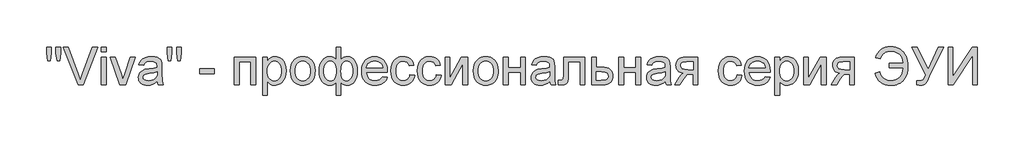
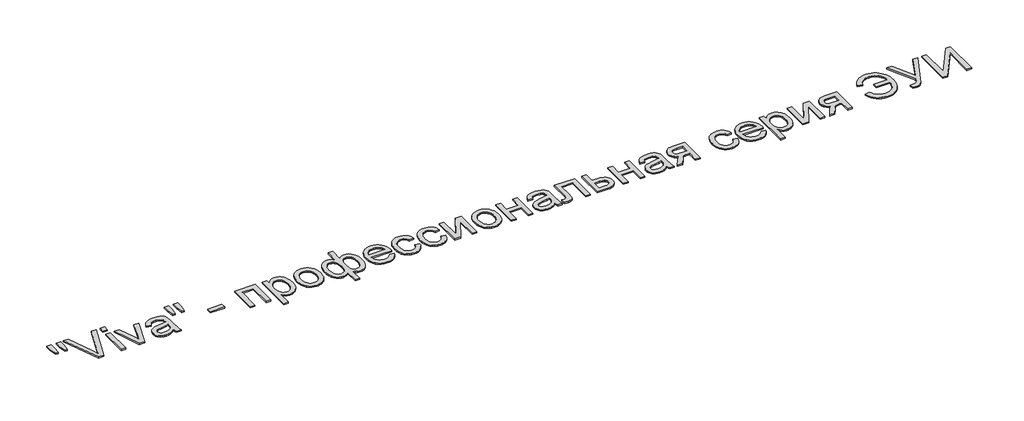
# One storey, part 12 of 15: 1 proxy.
"""IFC4 building model written with IfcOpenShell, lengths in millimetres."""

from ifc_helpers import new_model, si_unit, origin, origin_with_axes, place, context, project, spatial, polyline, outline, extrude, element, save

model = new_model("IFC4")

# Units and contexts
model_context = context("Model", 3, world=origin())
ifc_project = project(units=[si_unit("LENGTHUNIT", "METRE", prefix="MILLI")], contexts=[model_context])

# Site, building, storey
site = spatial("IfcSite", under=ifc_project)
building = spatial("IfcBuilding", under=site)
storey = spatial("IfcBuildingStorey", under=building, Name="Этаж 01", Elevation=0.0)

# Proxy
placement = place(None, origin())
element("IfcBuildingElementProxy", 1, Name="600 мм Arial", ObjectType="600 мм Arial", at=placement, inside=storey, context=model_context, shape_type="SweptSolid", body=[
    extrude(outline(polyline([(-8696.8209042, 8340.2726451), (-8715.215004, 8456.6705084), (-8715.215004, 8556.8815639), (-8639.8727714, 8556.8815639), (-8639.8727714, 8456.6705084), (-8656.3538847, 8340.2726451), (-8696.8209042, 8340.2726451)])), origin_with_axes(), (0.0, 0.0, 1.0), 20.0),
    extrude(outline(polyline([(-8546.5778974, 8340.2726451), (-8564.5305387, 8456.6705084), (-8564.5305387, 8556.8815639), (-8489.1883061, 8556.8815639), (-8489.1883061, 8456.6705084), (-8506.8466419, 8340.2726451), (-8546.5778974, 8340.2726451)])), origin_with_axes(), (0.0, 0.0, 1.0), 20.0),
    extrude(outline(polyline([(-8207.5378506, 7954.143703), (-8447.3969115, 8556.8815639), (-8366.7571781, 8556.8815639), (-8206.2134754, 8122.6336568), (-8173.6927071, 8024.7770461), (-8141.6133971, 8122.6336568), (-7980.628236, 8556.8815639), (-7899.9885027, 8556.8815639), (-8129.6940204, 7954.143703), (-8207.5378506, 7954.143703)])), origin_with_axes(), (0.0, 0.0, 1.0), 20.0),
    extrude(outline(polyline([(-7839.3615498, 8481.5393313), (-7839.3615498, 8556.8815639), (-7764.0193172, 8556.8815639), (-7764.0193172, 8481.5393313), (-7839.3615498, 8481.5393313)])), origin_with_axes(), (0.0, 0.0, 1.0), 20.0),
    extrude(outline(polyline([(-7839.3615498, 7954.143703), (-7839.3615498, 8396.7793196), (-7764.0193172, 8396.7793196), (-7764.0193172, 7954.143703), (-7839.3615498, 7954.143703)])), origin_with_axes(), (0.0, 0.0, 1.0), 20.0),
    extrude(outline(polyline([(-7542.4072033, 7954.143703), (-7698.0948637, 8396.7793196), (-7618.3380471, 8396.7793196), (-7524.0131036, 8131.6099775), (-7495.6126136, 8042.4353819), (-7467.8007347, 8126.6067823), (-7372.88718, 8396.7793196), (-7293.1303634, 8396.7793196), (-7446.9050374, 7954.143703), (-7542.4072033, 7954.143703)])), origin_with_axes(), (0.0, 0.0, 1.0), 20.0),
    extrude(outline(polyline([(-6944.6725376, 8010.6503775), (-6980.6697908, 7979.7850781), (-7017.7339018, 7959.5883565), (-7056.7109992, 7948.4415321), (-7098.4472116, 7944.7259239), (-7131.993451, 7946.9608071), (-7161.410215, 7953.6654564), (-7186.6975037, 7964.839872), (-7207.8553169, 7980.4840539), (-7224.561758, 7999.6047206), (-7236.4949302, 8021.2085907), (-7243.6548336, 8045.2956644), (-7246.041468, 8071.8659415), (-7242.4362245, 8103.0991229), (-7231.6204938, 8131.4628247), (-7214.9370453, 8155.7430364), (-7193.7286483, 8174.7257473), (-7168.8046431, 8189.0731451), (-7140.9743702, 8199.4474174), (-7075.7856807, 8210.7781828), (-6998.7511909, 8222.6975595), (-6945.113996, 8236.6770753), (-6944.6725376, 8253.4524943), (-6949.8596737, 8287.0769086), (-6956.3435939, 8299.5297142), (-6965.4210821, 8309.076252), (-6981.1112492, 8318.6043956), (-7000.2227188, 8325.4102125), (-7048.7095658, 8330.8548661), (-7093.5911692, 8327.2312284), (-7124.9347152, 8316.3603155), (-7146.3086591, 8296.2555644), (-7161.2814563, 8264.9304125), (-7236.6236889, 8274.3481916), (-7223.545484, 8315.5509751), (-7204.0293442, 8347.9245906), (-7176.2542535, 8372.6830489), (-7138.3991962, 8391.0403605), (-7092.1012471, 8402.4079141), (-7038.9974811, 8406.1970987), (-6988.0642189, 8402.8493725), (-6947.6891699, 8392.8061941), (-6917.2469348, 8377.7046382), (-6896.1121142, 8359.1817797), (-6882.0958102, 8336.2811255), (-6873.0091249, 8308.0461824), (-6869.330305, 8242.1217288), (-6869.330305, 8148.3853965), (-6865.5043322, 8017.4929826), (-6859.8389495, 7985.1377611), (-6850.4947468, 7954.143703), (-6925.8369794, 7954.143703), (-6937.9035089, 7980.3369011), (-6944.6725376, 8010.6503775)]), holes=[polyline([(-6944.6725376, 8161.3348427), (-6995.2931001, 8148.7900667), (-7066.2207488, 8138.2318534), (-7131.0415563, 8126.0181712), (-7147.9089458, 8117.6672499), (-7160.3985395, 8106.1525434), (-7168.1240614, 8092.3569686), (-7170.6992354, 8077.1634422), (-7165.089035, 8054.7594287), (-7148.2584337, 8036.4021171), (-7120.5753136, 8024.1516467), (-7082.4075566, 8020.0681565), (-7041.9405371, 8024.574711), (-7006.1824072, 8038.0943743), (-6977.1933059, 8058.0151843), (-6957.0333726, 8081.7251789), (-6948.0938401, 8106.1525434), (-6945.113996, 8139.997687), (-6944.6725376, 8161.3348427)])]), origin_with_axes(), (0.0, 0.0, 1.0), 20.0),
    extrude(outline(polyline([(-6766.1761935, 8340.2726451), (-6784.5702933, 8456.6705084), (-6784.5702933, 8556.8815639), (-6709.2280607, 8556.8815639), (-6709.2280607, 8456.6705084), (-6725.709174, 8340.2726451), (-6766.1761935, 8340.2726451)])), origin_with_axes(), (0.0, 0.0, 1.0), 20.0),
    extrude(outline(polyline([(-6615.9331867, 8340.2726451), (-6633.8858281, 8456.6705084), (-6633.8858281, 8556.8815639), (-6558.5435954, 8556.8815639), (-6558.5435954, 8456.6705084), (-6576.2019312, 8340.2726451), (-6615.9331867, 8340.2726451)])), origin_with_axes(), (0.0, 0.0, 1.0), 20.0),
    extrude(outline(polyline([(-6266.5924441, 8133.0815055), (-6266.5924441, 8208.4237381), (-6031.1479672, 8208.4237381), (-6031.1479672, 8133.0815055), (-6266.5924441, 8133.0815055)])), origin_with_axes(), (0.0, 0.0, 1.0), 20.0),
    extrude(outline(polyline([(-5710.9434786, 8396.7793196), (-5371.9034318, 8396.7793196), (-5371.9034318, 7954.143703), (-5447.2456644, 7954.143703), (-5447.2456644, 8321.437087), (-5635.6012459, 8321.437087), (-5635.6012459, 7954.143703), (-5710.9434786, 7954.143703), (-5710.9434786, 8396.7793196)])), origin_with_axes(), (0.0, 0.0, 1.0), 20.0),
    extrude(outline(polyline([(-5258.8900829, 7784.6236796), (-5258.8900829, 8396.7793196), (-5183.5478503, 8396.7793196), (-5183.5478503, 8322.908615), (-5158.973333, 8359.3473266), (-5131.4557597, 8385.3749778), (-5099.3764498, 8400.9915685), (-5061.1167223, 8406.1970987), (-5034.8407508, 8404.3760828), (-5010.1650659, 8398.9130352), (-4987.0896678, 8389.8079558), (-4965.6145563, 8377.0608447), (-4946.2087811, 8361.0027956), (-4929.3413916, 8341.9649023), (-4915.0123879, 8319.9471649), (-4903.2217699, 8294.9495833), (-4887.4396323, 8239.4361903), (-4882.1789198, 8178.8460257), (-4888.120214, 8114.4114942), (-4895.5468318, 8084.7464098), (-4905.9440967, 8056.7827797), (-4919.1694544, 8031.2517692), (-4935.0803507, 8008.8845439), (-4953.6767856, 7989.6811037), (-4974.958759, 7973.6414488), (-4997.8824058, 7960.9909066), (-5021.4038609, 7951.9548051), (-5045.5231242, 7946.5331442), (-5070.2401958, 7944.7259239), (-5104.8762856, 7949.5635722), (-5135.7967673, 7964.0765169), (-5162.2658768, 7985.9838897), (-5183.5478503, 8013.0048222), (-5183.5478503, 7784.6236796), (-5258.8900829, 7784.6236796)]), holes=[polyline([(-5183.5478503, 8171.9298442), (-5181.5107037, 8135.6198912), (-5175.3992641, 8104.3867098), (-5165.2135313, 8078.2303), (-5150.9535055, 8057.1506617), (-5133.7872119, 8040.9270657), (-5114.8826759, 8029.3387828), (-5094.2398974, 8022.3858131), (-5071.8588765, 8020.0681565), (-5049.1559589, 8022.4685866), (-5028.1361014, 8029.6698766), (-5008.799304, 8041.6720267), (-4991.1455668, 8058.4750368), (-4976.4348855, 8080.3180303), (-4965.927256, 8107.4401304), (-4959.6226783, 8139.8413371), (-4957.5211524, 8177.5216505), (-4959.5720946, 8213.5189037), (-4965.7249209, 8244.6969028), (-4975.9796315, 8271.0556478), (-4990.3362264, 8292.5951386), (-5007.5439067, 8309.3337694), (-5026.3518737, 8321.2899342), (-5046.7601274, 8328.4636331), (-5068.7686678, 8330.8548661), (-5090.7082303, 8328.3118818), (-5111.3510087, 8320.6829289), (-5130.6970031, 8307.9680074), (-5148.7462135, 8290.1671174), (-5163.9719296, 8267.5193821), (-5174.8474411, 8240.2639248), (-5181.372748, 8208.4007455), (-5183.5478503, 8171.9298442)])]), origin_with_axes(), (0.0, 0.0, 1.0), 20.0),
    extrude(outline(polyline([(-4816.2544663, 8175.4615113), (-4812.1801732, 8232.7867232), (-4799.9572939, 8282.1840781), (-4779.5858284, 8323.653576), (-4751.0657767, 8357.1952169), (-4722.352587, 8378.6335402), (-4690.6595531, 8393.9466282), (-4655.9866751, 8403.1344811), (-4618.3339529, 8406.1970987), (-4576.7678859, 8402.467695), (-4539.1841416, 8391.2794838), (-4505.5827199, 8372.6324651), (-4475.9636207, 8346.5266391), (-4451.7891751, 8313.8449223), (-4434.521714, 8275.4702317), (-4424.1612373, 8231.4025672), (-4420.7077451, 8181.6419288), (-4422.2344553, 8141.3128651), (-4426.8145862, 8105.527144), (-4434.4481376, 8074.2847656), (-4445.1351095, 8047.5857298), (-4458.7421448, 8024.5241272), (-4475.1358863, 8004.1940485), (-4494.3163338, 7986.5954935), (-4516.2834874, 7971.7284624), (-4540.1820215, 7959.9148518), (-4565.1566105, 7951.4765585), (-4591.2072543, 7946.4135826), (-4618.3339529, 7944.7259239), (-4660.5070251, 7948.4415321), (-4698.4402573, 7959.5883565), (-4732.1336496, 7978.1663973), (-4761.5872018, 8004.1756544), (-4785.50413, 8037.1746693), (-4802.5876502, 8076.7219838), (-4812.8377623, 8122.8175978), (-4816.2544663, 8175.4615113)]), holes=[polyline([(-4740.9122337, 8175.6086641), (-4738.7325328, 8139.0641864), (-4732.1934304, 8107.4217363), (-4721.2949263, 8080.6813138), (-4706.0370205, 8058.8429188), (-4687.4773739, 8041.8789603), (-4666.673647, 8029.7618471), (-4643.62584, 8022.4915792), (-4618.3339529, 8020.0681565), (-4593.1708244, 8022.5053748), (-4570.2149879, 8029.8170294), (-4549.4664434, 8042.0031205), (-4530.9251908, 8059.063648), (-4515.6672851, 8081.1181736), (-4504.768781, 8108.286259), (-4498.2296785, 8140.5679041), (-4496.0499777, 8177.9631089), (-4498.2434741, 8213.3487583), (-4504.8239633, 8244.1634739), (-4515.7914452, 8270.4072557), (-4531.14592, 8292.0801038), (-4549.7561504, 8309.0440623), (-4570.4908994, 8321.1611755), (-4593.3501669, 8328.4314434), (-4618.3339529, 8330.8548661), (-4643.62584, 8328.4406405), (-4666.673647, 8321.1979637), (-4687.4773739, 8309.1268357), (-4706.0370205, 8292.2272566), (-4721.2949263, 8270.453241), (-4732.1934304, 8243.7588037), (-4738.7325328, 8212.1439448), (-4740.9122337, 8175.6086641)])]), origin_with_axes(), (0.0, 0.0, 1.0), 20.0),
    extrude(outline(polyline([(-4081.6676983, 8556.8815639), (-4006.3254657, 8556.8815639), (-4006.3254657, 8354.252161), (-3983.4615997, 8377.116027), (-3958.4272299, 8393.3212289), (-3931.332721, 8402.9781312), (-3902.2884375, 8406.1970987), (-3867.4086258, 8402.1044115), (-3836.3455898, 8389.8263499), (-3809.0993296, 8369.3629139), (-3785.669845, 8340.7141035), (-3766.8388854, 8305.8572845), (-3753.3881999, 8266.7698225), (-3745.3177886, 8223.4517176), (-3742.6276516, 8175.9029697), (-3745.5247223, 8126.5929868), (-3754.2159344, 8082.2586078), (-3768.701288, 8042.8998329), (-3788.9807829, 8008.5166619), (-3813.5644973, 7980.608214), (-3840.9625089, 7960.6736084), (-3871.1748177, 7948.7128451), (-3904.2014238, 7944.7259239), (-3927.0468957, 7946.5653339), (-3950.2602496, 7952.0835638), (-3975.9752011, 7965.8055623), (-4006.3254657, 7992.2562777), (-4006.3254657, 7784.6236796), (-4081.6676983, 7784.6236796), (-4081.6676983, 7992.2562777), (-4104.5867466, 7971.5077332), (-4129.7866633, 7956.6453006), (-4157.1938719, 7947.7057681), (-4186.7347961, 7944.7259239), (-4219.3659291, 7948.5335026), (-4249.8633465, 7959.9562385), (-4278.2270483, 7978.9941318), (-4304.4570346, 8005.6471823), (-4326.474772, 8039.3911583), (-4342.2017273, 8079.701828), (-4351.6379005, 8126.5791912), (-4354.7832915, 8180.023248), (-4351.9368046, 8226.1280591), (-4343.3973438, 8268.3517151), (-4329.1649091, 8306.694216), (-4309.2395005, 8341.1555619), (-4284.5040349, 8369.6112343), (-4255.8414289, 8389.9367145), (-4223.2516827, 8402.1320026), (-4186.7347961, 8406.1970987), (-4156.0350436, 8402.9781312), (-4128.3887117, 8393.3212289), (-4103.6486475, 8377.116027), (-4081.6676983, 8354.252161), (-4081.6676983, 8556.8815639)]), holes=[polyline([(-4279.4410589, 8181.6419288), (-4277.5556637, 8141.6807471), (-4271.899478, 8107.734436), (-4262.4725019, 8079.8029955), (-4249.2747353, 8057.8864256), (-4233.2810656, 8041.3409329), (-4215.46638, 8029.5227238), (-4195.8306785, 8022.4317984), (-4174.3739611, 8020.0681565), (-4152.4527927, 8022.4180028), (-4133.4838773, 8029.4675415), (-4117.467215, 8041.2167727), (-4104.4028056, 8057.6656965), (-4094.2630581, 8078.8143126), (-4087.0203813, 8104.6626213), (-4082.6747753, 8135.2106225), (-4081.2262399, 8170.4583162), (-4082.7483517, 8208.0512576), (-4087.3146869, 8240.6318068), (-4094.9252457, 8268.1999638), (-4105.580028, 8290.7557286), (-4119.3066249, 8308.2991012), (-4136.1326277, 8320.8300817), (-4156.0580363, 8328.34867), (-4179.0828506, 8330.8548661), (-4200.2728536, 8328.4084508), (-4219.4027173, 8321.069205), (-4236.4724419, 8308.8371287), (-4251.4820273, 8291.7122218), (-4263.7141036, 8270.1543369), (-4272.451301, 8244.6233264), (-4277.6936194, 8215.1191904), (-4279.4410589, 8181.6419288)]), polyline([(-4006.7669241, 8174.1371361), (-4005.1988271, 8132.2583695), (-4000.4945361, 8097.8568044), (-3992.6540511, 8070.9324409), (-3981.677372, 8051.4852789), (-3968.3370512, 8037.7402879), (-3953.4056407, 8027.9224371), (-3936.8831406, 8022.0317267), (-3918.7695508, 8020.0681565), (-3898.6418072, 8022.4823821), (-3880.0499709, 8029.7250589), (-3862.9940419, 8041.7961869), (-3847.4740202, 8058.695766), (-3834.5659607, 8080.6813138), (-3825.3459182, 8108.0103475), (-3819.8138927, 8140.6828672), (-3817.9698842, 8178.6988729), (-3819.6713384, 8214.6593379), (-3824.7757011, 8245.7269724), (-3833.2829722, 8271.9017763), (-3845.1931518, 8293.1837498), (-3859.7704759, 8309.6648631), (-3876.2791804, 8321.437087), (-3894.7192654, 8328.5004213), (-3915.0907309, 8330.8548661), (-3936.4876674, 8328.4038523), (-3955.0611097, 8321.0508109), (-3970.8110576, 8308.7957419), (-3983.7375112, 8291.6386454), (-3993.8128793, 8269.5887183), (-4001.0095709, 8242.6551577), (-4005.3275858, 8210.8379637), (-4006.7669241, 8174.1371361)])]), origin_with_axes(), (0.0, 0.0, 1.0), 20.0),
    extrude(outline(polyline([(-3338.5460681, 8085.9926101), (-3264.6753634, 8076.574831), (-3276.0015303, 8046.9879215), (-3291.2916258, 8020.9142851), (-3310.5456497, 7998.3539218), (-3333.7636021, 7979.3068315), (-3360.7063597, 7964.1776844), (-3391.1347993, 7953.3711508), (-3425.0489207, 7946.8872307), (-3462.448724, 7944.7259239), (-3509.1973286, 7948.4553277), (-3550.8507675, 7959.6435388), (-3587.4090407, 7978.2905575), (-3618.8721484, 8004.3963836), (-3644.1732326, 8037.2344501), (-3662.2454356, 8076.0781903), (-3673.0887574, 8120.927604), (-3676.703198, 8171.7826914), (-3673.0519692, 8224.3622255), (-3662.0982828, 8270.7061599), (-3643.8421388, 8310.8144944), (-3618.2835372, 8344.6872291), (-3586.903203, 8371.597797), (-3551.1818613, 8390.8196313), (-3511.119512, 8402.3527318), (-3466.7161552, 8406.1970987), (-3423.7429396, 8402.3619289), (-3384.8808053, 8390.8564195), (-3350.1297524, 8371.6805705), (-3319.4897807, 8344.8343819), (-3294.4784036, 8311.0352236), (-3276.6131342, 8271.0004655), (-3265.8939725, 8224.7301075), (-3262.3209187, 8172.2241497), (-3262.762377, 8151.9170636), (-3601.3609654, 8151.9170636), (-3596.9969652, 8121.8519076), (-3588.3195487, 8095.5207538), (-3575.3287157, 8072.9236022), (-3558.0244664, 8054.0604529), (-3537.3632938, 8039.1888232), (-3514.3016913, 8028.5662306), (-3488.8396587, 8022.1926751), (-3460.977196, 8020.0681565), (-3420.8780586, 8024.0044939), (-3387.1064914, 8035.8135059), (-3359.6624946, 8056.2309567), (-3338.5460681, 8085.9926101)]), holes=[polyline([(-3601.3609654, 8227.2592962), (-3337.6631513, 8227.2592962), (-3347.8534825, 8267.0641281), (-3356.6182711, 8282.717507), (-3367.8294749, 8295.5381945), (-3388.3756843, 8310.9892383), (-3411.7545851, 8322.0256982), (-3437.9661773, 8328.6475741), (-3467.0104608, 8330.8548661), (-3493.5025629, 8329.093631), (-3517.7965702, 8323.8099259), (-3539.8924825, 8315.0037506), (-3559.7903, 8302.6751052), (-3576.487544, 8287.3942069), (-3588.9817363, 8269.7312726), (-3597.2728767, 8249.6863024), (-3601.3609654, 8227.2592962)])]), origin_with_axes(), (0.0, 0.0, 1.0), 20.0),
    extrude(outline(polyline([(-2904.4453137, 8114.2459473), (-2829.1030811, 8104.8281682), (-2837.2976526, 8069.2769719), (-2850.1091431, 8037.8184628), (-2867.5375526, 8010.4526409), (-2889.5828811, 7987.1795062), (-2915.3162267, 7968.6060639), (-2943.8086872, 7955.3393195), (-2975.0602627, 7947.3792728), (-3009.0709532, 7944.7259239), (-3051.3267988, 7948.4277365), (-3089.2140458, 7959.5331742), (-3122.7326941, 7978.0422371), (-3151.8827437, 8003.9549252), (-3175.4777752, 8036.7837947), (-3192.3313691, 8076.0414021), (-3202.4435254, 8121.7277474), (-3205.8142442, 8173.8428305), (-3200.056891, 8240.8893241), (-3192.8601994, 8271.0602463), (-3182.7848313, 8298.9962853), (-3169.7618087, 8324.1364211), (-3153.7221537, 8345.9196338), (-3134.6658663, 8364.3459232), (-3112.5929466, 8379.4152894), (-3088.5012745, 8391.132331), (-3063.3887298, 8399.5016464), (-3037.2553125, 8404.5232356), (-3010.1010228, 8406.1970987), (-2976.674345, 8403.8978362), (-2946.4390435, 8397.0000488), (-2919.3951183, 8385.5037365), (-2895.5425695, 8369.4088992), (-2875.2860671, 8349.0834189), (-2859.0302814, 8324.8951777), (-2846.7752125, 8296.8441756), (-2838.5208602, 8264.9304125), (-2913.8630928, 8255.5126335), (-2927.5299089, 8288.3828897), (-2948.8118824, 8311.9457315), (-2976.5317907, 8326.1275824), (-3009.5124116, 8330.8548661), (-3035.1123999, 8328.5280125), (-3058.2015936, 8321.5474516), (-3078.7799927, 8309.9131835), (-3096.8475972, 8293.6252082), (-3111.5582785, 8272.3064465), (-3122.065908, 8245.5798196), (-3128.3704857, 8213.4453273), (-3130.4720116, 8175.9029697), (-3128.4164709, 8137.7949935), (-3122.249849, 8105.2880207), (-3111.9721458, 8078.3820513), (-3097.5833612, 8057.0770853), (-3079.8744417, 8040.8856789), (-3059.6363334, 8029.3203887), (-3036.8690364, 8022.3812146), (-3011.5725507, 8020.0681565), (-2972.5586652, 8025.8439039), (-2955.6866771, 8033.063588), (-2940.5713257, 8043.1711458), (-2927.635675, 8056.2769419), (-2917.3027895, 8072.4913409), (-2909.5726691, 8091.8143427), (-2904.4453137, 8114.2459473)])), origin_with_axes(), (0.0, 0.0, 1.0), 20.0),
    extrude(outline(polyline([(-2480.6452553, 8114.2459473), (-2405.3030227, 8104.8281682), (-2413.4975941, 8069.2769719), (-2426.3090846, 8037.8184628), (-2443.7374941, 8010.4526409), (-2465.7828227, 7987.1795062), (-2491.5161683, 7968.6060639), (-2520.0086288, 7955.3393195), (-2551.2602043, 7947.3792728), (-2585.2708947, 7944.7259239), (-2627.5267404, 7948.4277365), (-2665.4139874, 7959.5331742), (-2698.9326357, 7978.0422371), (-2728.0826853, 8003.9549252), (-2751.6777167, 8036.7837947), (-2768.5313106, 8076.0414021), (-2778.643467, 8121.7277474), (-2782.0141858, 8173.8428305), (-2776.2568325, 8240.8893241), (-2769.060141, 8271.0602463), (-2758.9847729, 8298.9962853), (-2745.9617502, 8324.1364211), (-2729.9220952, 8345.9196338), (-2710.8658079, 8364.3459232), (-2688.7928882, 8379.4152894), (-2664.701216, 8391.132331), (-2639.5886713, 8399.5016464), (-2613.4552541, 8404.5232356), (-2586.3009643, 8406.1970987), (-2552.8742865, 8403.8978362), (-2522.6389851, 8397.0000488), (-2495.5950599, 8385.5037365), (-2471.742511, 8369.4088992), (-2451.4860087, 8349.0834189), (-2435.230223, 8324.8951777), (-2422.975154, 8296.8441756), (-2414.7208018, 8264.9304125), (-2490.0630344, 8255.5126335), (-2503.7298505, 8288.3828897), (-2525.0118239, 8311.9457315), (-2552.7317323, 8326.1275824), (-2585.7123531, 8330.8548661), (-2611.3123415, 8328.5280125), (-2634.4015352, 8321.5474516), (-2654.9799343, 8309.9131835), (-2673.0475388, 8293.6252082), (-2687.7582201, 8272.3064465), (-2698.2658495, 8245.5798196), (-2704.5704272, 8213.4453273), (-2706.6719531, 8175.9029697), (-2704.6164125, 8137.7949935), (-2698.4497905, 8105.2880207), (-2688.1720873, 8078.3820513), (-2673.7833028, 8057.0770853), (-2656.0743832, 8040.8856789), (-2635.836275, 8029.3203887), (-2613.068978, 8022.3812146), (-2587.7724923, 8020.0681565), (-2548.7586067, 8025.8439039), (-2531.8866187, 8033.063588), (-2516.7712672, 8043.1711458), (-2503.8356166, 8056.2769419), (-2493.502731, 8072.4913409), (-2485.7726106, 8091.8143427), (-2480.6452553, 8114.2459473)])), origin_with_axes(), (0.0, 0.0, 1.0), 20.0),
    extrude(outline(polyline([(-2339.3785692, 8396.7793196), (-2264.0363365, 8396.7793196), (-2264.0363365, 8059.2108008), (-2078.9181166, 8396.7793196), (-1981.5029642, 8396.7793196), (-1981.5029642, 7954.143703), (-2056.8451969, 7954.143703), (-2056.8451969, 8289.6520826), (-2240.7861944, 7954.143703), (-2339.3785692, 7954.143703), (-2339.3785692, 8396.7793196)])), origin_with_axes(), (0.0, 0.0, 1.0), 20.0),
    extrude(outline(polyline([(-1887.3251735, 8175.4615113), (-1883.2508804, 8232.7867232), (-1871.0280011, 8282.1840781), (-1850.6565356, 8323.653576), (-1822.1364839, 8357.1952169), (-1793.4232942, 8378.6335402), (-1761.7302603, 8393.9466282), (-1727.0573823, 8403.1344811), (-1689.4046601, 8406.1970987), (-1647.8385931, 8402.467695), (-1610.2548488, 8391.2794838), (-1576.6534271, 8372.6324651), (-1547.0343279, 8346.5266391), (-1522.8598823, 8313.8449223), (-1505.5924212, 8275.4702317), (-1495.2319445, 8231.4025672), (-1491.7784523, 8181.6419288), (-1493.3051625, 8141.3128651), (-1497.8852934, 8105.527144), (-1505.5188448, 8074.2847656), (-1516.2058167, 8047.5857298), (-1529.812852, 8024.5241272), (-1546.2065935, 8004.1940485), (-1565.387041, 7986.5954935), (-1587.3541946, 7971.7284624), (-1611.2527287, 7959.9148518), (-1636.2273177, 7951.4765585), (-1662.2779615, 7946.4135826), (-1689.4046601, 7944.7259239), (-1731.5777323, 7948.4415321), (-1769.5109645, 7959.5883565), (-1803.2043568, 7978.1663973), (-1832.657909, 8004.1756544), (-1856.5748372, 8037.1746693), (-1873.6583574, 8076.7219838), (-1883.9084695, 8122.8175978), (-1887.3251735, 8175.4615113)]), holes=[polyline([(-1811.9829409, 8175.6086641), (-1809.80324, 8139.0641864), (-1803.2641376, 8107.4217363), (-1792.3656335, 8080.6813138), (-1777.1077277, 8058.8429188), (-1758.5480811, 8041.8789603), (-1737.7443542, 8029.7618471), (-1714.6965472, 8022.4915792), (-1689.4046601, 8020.0681565), (-1664.2415316, 8022.5053748), (-1641.2856951, 8029.8170294), (-1620.5371506, 8042.0031205), (-1601.995898, 8059.063648), (-1586.7379923, 8081.1181736), (-1575.8394882, 8108.286259), (-1569.3003857, 8140.5679041), (-1567.1206849, 8177.9631089), (-1569.3141813, 8213.3487583), (-1575.8946705, 8244.1634739), (-1586.8621524, 8270.4072557), (-1602.2166272, 8292.0801038), (-1620.8268577, 8309.0440623), (-1641.5616066, 8321.1611755), (-1664.4208741, 8328.4314434), (-1689.4046601, 8330.8548661), (-1714.6965472, 8328.4406405), (-1737.7443542, 8321.1979637), (-1758.5480811, 8309.1268357), (-1777.1077277, 8292.2272566), (-1792.3656335, 8270.453241), (-1803.2641376, 8243.7588037), (-1809.80324, 8212.1439448), (-1811.9829409, 8175.6086641)])]), origin_with_axes(), (0.0, 0.0, 1.0), 20.0),
    extrude(outline(polyline([(-1407.0184406, 8396.7793196), (-1331.676208, 8396.7793196), (-1331.676208, 8227.2592962), (-1133.9028474, 8227.2592962), (-1133.9028474, 8396.7793196), (-1058.5606147, 8396.7793196), (-1058.5606147, 7954.143703), (-1133.9028474, 7954.143703), (-1133.9028474, 8151.9170636), (-1331.676208, 8151.9170636), (-1331.676208, 7954.143703), (-1407.0184406, 7954.143703), (-1407.0184406, 8396.7793196)])), origin_with_axes(), (0.0, 0.0, 1.0), 20.0),
    extrude(outline(polyline([(-663.0138935, 8010.6503775), (-699.0111468, 7979.7850781), (-736.0752578, 7959.5883565), (-775.0523552, 7948.4415321), (-816.7885675, 7944.7259239), (-850.334807, 7946.9608071), (-879.751571, 7953.6654564), (-905.0388596, 7964.839872), (-926.1966729, 7980.4840539), (-942.903114, 7999.6047206), (-954.8362862, 8021.2085907), (-961.9961895, 8045.2956644), (-964.382824, 8071.8659415), (-960.7775804, 8103.0991229), (-949.9618498, 8131.4628247), (-933.2784013, 8155.7430364), (-912.0700043, 8174.7257473), (-887.1459991, 8189.0731451), (-859.3157262, 8199.4474174), (-794.1270366, 8210.7781828), (-717.0925468, 8222.6975595), (-663.4553519, 8236.6770753), (-663.0138935, 8253.4524943), (-668.2010297, 8287.0769086), (-674.6849498, 8299.5297142), (-683.7624381, 8309.076252), (-699.4526052, 8318.6043956), (-718.5640748, 8325.4102125), (-767.0509218, 8330.8548661), (-811.9325252, 8327.2312284), (-843.2760712, 8316.3603155), (-864.6500151, 8296.2555644), (-879.6228123, 8264.9304125), (-954.9650449, 8274.3481916), (-941.88684, 8315.5509751), (-922.3707001, 8347.9245906), (-894.5956095, 8372.6830489), (-856.7405522, 8391.0403605), (-810.4426031, 8402.4079141), (-757.3388371, 8406.1970987), (-706.4055749, 8402.8493725), (-666.0305259, 8392.8061941), (-635.5882908, 8377.7046382), (-614.4534702, 8359.1817797), (-600.4371662, 8336.2811255), (-591.3504809, 8308.0461824), (-587.6716609, 8242.1217288), (-587.6716609, 8148.3853965), (-583.8456882, 8017.4929826), (-578.1803054, 7985.1377611), (-568.8361028, 7954.143703), (-644.1783354, 7954.143703), (-656.2448648, 7980.3369011), (-663.0138935, 8010.6503775)]), holes=[polyline([(-663.0138935, 8161.3348427), (-713.6344561, 8148.7900667), (-784.5621047, 8138.2318534), (-849.3829123, 8126.0181712), (-866.2503018, 8117.6672499), (-878.7398955, 8106.1525434), (-886.4654174, 8092.3569686), (-889.0405914, 8077.1634422), (-883.4303909, 8054.7594287), (-866.5997897, 8036.4021171), (-838.9166695, 8024.1516467), (-800.7489125, 8020.0681565), (-760.2818931, 8024.574711), (-724.5237631, 8038.0943743), (-695.5346619, 8058.0151843), (-675.3747286, 8081.7251789), (-666.4351961, 8106.1525434), (-663.4553519, 8139.997687), (-663.0138935, 8161.3348427)])]), origin_with_axes(), (0.0, 0.0, 1.0), 20.0),
    extrude(outline(polyline([(-446.4049748, 8396.7793196), (-107.364928, 8396.7793196), (-107.364928, 7954.5851614), (-182.7071606, 7954.5851614), (-182.7071606, 8321.437087), (-371.0627422, 8321.437087), (-371.0627422, 8110.2728218), (-372.331935, 8048.9836814), (-376.1395137, 8012.8576694), (-385.6492633, 7990.8031438), (-404.0249689, 7971.7284624), (-431.9104242, 7958.5398929), (-469.9494225, 7954.143703), (-531.1649865, 7957.9696758), (-531.1649865, 8029.4859356), (-497.4669957, 8029.4859356), (-477.0311509, 8030.6447639), (-463.401123, 8034.1212488), (-454.8846548, 8040.1177253), (-449.7894891, 8048.8365286), (-446.4049748, 8114.5402529), (-446.4049748, 8396.7793196)])), origin_with_axes(), (0.0, 0.0, 1.0), 20.0),
    extrude(outline(polyline([(5.6484209, 8396.7793196), (80.9906535, 8396.7793196), (80.9906535, 8236.6770753), (167.8108044, 8236.6770753), (207.8915477, 8234.318032), (243.0794606, 8227.2409021), (273.3745429, 8215.4456857), (298.7767947, 8198.9323826), (318.8631516, 8178.27121), (333.2105494, 8154.0323851), (341.8189881, 8126.2159077), (344.6884677, 8094.821778), (342.2466509, 8066.8121626), (334.9212007, 8040.9086716), (322.712117, 8017.111305), (305.6193998, 7995.4200629), (283.1556054, 7977.3616554), (254.8332903, 7964.462793), (220.6524545, 7956.7234755), (180.6130978, 7954.143703), (5.6484209, 7954.143703), (5.6484209, 8396.7793196)]), holes=[polyline([(80.9906535, 8029.4859356), (151.329691, 8029.4859356), (205.904985, 8033.4406671), (226.3362313, 8038.3840814), (242.1965438, 8045.3048614), (254.0745337, 8054.3225688), (262.5588122, 8065.5567652), (267.6493793, 8079.0074507), (269.346235, 8094.6746252), (264.3246458, 8119.2859306), (249.2598781, 8141.0277566), (236.1678776, 8149.9121067), (216.978233, 8156.2580712), (160.3060117, 8161.3348427), (80.9906535, 8161.3348427), (80.9906535, 8029.4859356)])]), origin_with_axes(), (0.0, 0.0, 1.0), 20.0),
    extrude(outline(polyline([(438.8662584, 8396.7793196), (514.208491, 8396.7793196), (514.208491, 8227.2592962), (711.9818516, 8227.2592962), (711.9818516, 8396.7793196), (787.3240843, 8396.7793196), (787.3240843, 7954.143703), (711.9818516, 7954.143703), (711.9818516, 8151.9170636), (514.208491, 8151.9170636), (514.208491, 7954.143703), (438.8662584, 7954.143703), (438.8662584, 8396.7793196)])), origin_with_axes(), (0.0, 0.0, 1.0), 20.0),
    extrude(outline(polyline([(1182.8708055, 8010.6503775), (1146.8735522, 7979.7850781), (1109.8094412, 7959.5883565), (1070.8323438, 7948.4415321), (1029.0961315, 7944.7259239), (995.549892, 7946.9608071), (966.133128, 7953.6654564), (940.8458394, 7964.839872), (919.6880261, 7980.4840539), (902.981585, 7999.6047206), (891.0484128, 8021.2085907), (883.8885095, 8045.2956644), (881.501875, 8071.8659415), (885.1071186, 8103.0991229), (895.9228492, 8131.4628247), (912.6062977, 8155.7430364), (933.8146947, 8174.7257473), (958.7386999, 8189.0731451), (986.5689728, 8199.4474174), (1051.7576624, 8210.7781828), (1128.7921522, 8222.6975595), (1182.4293471, 8236.6770753), (1182.8708055, 8253.4524943), (1177.6836693, 8287.0769086), (1171.1997492, 8299.5297142), (1162.1222609, 8309.076252), (1146.4320938, 8318.6043956), (1127.3206242, 8325.4102125), (1078.8337772, 8330.8548661), (1033.9521738, 8327.2312284), (1002.6086278, 8316.3603155), (981.2346839, 8296.2555644), (966.2618867, 8264.9304125), (890.9196541, 8274.3481916), (903.997859, 8315.5509751), (923.5139989, 8347.9245906), (951.2890895, 8372.6830489), (989.1441468, 8391.0403605), (1035.4420959, 8402.4079141), (1088.5458619, 8406.1970987), (1139.4791241, 8402.8493725), (1179.8541731, 8392.8061941), (1210.2964082, 8377.7046382), (1231.4312288, 8359.1817797), (1245.4475328, 8336.2811255), (1254.5342181, 8308.0461824), (1258.2130381, 8242.1217288), (1258.2130381, 8148.3853965), (1262.0390108, 8017.4929826), (1267.7043936, 7985.1377611), (1277.0485962, 7954.143703), (1201.7063636, 7954.143703), (1189.6398342, 7980.3369011), (1182.8708055, 8010.6503775)]), holes=[polyline([(1182.8708055, 8161.3348427), (1132.2502429, 8148.7900667), (1061.3225943, 8138.2318534), (996.5017867, 8126.0181712), (979.6343972, 8117.6672499), (967.1448035, 8106.1525434), (959.4192816, 8092.3569686), (956.8441076, 8077.1634422), (962.4543081, 8054.7594287), (979.2849093, 8036.4021171), (1006.9680295, 8024.1516467), (1045.1357865, 8020.0681565), (1085.6028059, 8024.574711), (1121.3609359, 8038.0943743), (1150.3500371, 8058.0151843), (1170.5099704, 8081.7251789), (1179.4495029, 8106.1525434), (1182.4293471, 8139.997687), (1182.8708055, 8161.3348427)])]), origin_with_axes(), (0.0, 0.0, 1.0), 20.0),
    extrude(outline(polyline([(1700.8486547, 8396.7793196), (1700.8486547, 7954.143703), (1625.5064221, 7954.143703), (1625.5064221, 8123.6637264), (1584.4507914, 8123.6637264), (1551.7092938, 8121.2724934), (1528.5327281, 8114.0987945), (1506.202291, 8093.2398854), (1475.9991792, 8049.7930218), (1415.9608376, 7954.143703), (1328.8463812, 7954.143703), (1404.4829194, 8075.103303), (1437.8866045, 8118.5133785), (1453.5951657, 8131.1685191), (1468.6415393, 8137.790395), (1440.9768133, 8143.9064332), (1417.13806, 8153.5725326), (1397.1252795, 8166.7886933), (1380.9384717, 8183.5549152), (1368.4488779, 8202.7951435), (1359.5277395, 8223.4333235), (1354.1750565, 8245.469455), (1352.3908288, 8268.9035381), (1354.8280471, 8296.0348352), (1362.1397017, 8320.4805938), (1374.3257928, 8342.2408138), (1391.3863203, 8361.3154953), (1413.0637669, 8376.8309184), (1439.1006151, 8387.9133635), (1469.496865, 8394.5628306), (1504.2525165, 8396.7793196), (1700.8486547, 8396.7793196)]), holes=[polyline([(1625.5064221, 8321.437087), (1526.1782834, 8321.437087), (1474.8771391, 8317.0776854), (1457.5452986, 8311.6284333), (1445.7592792, 8303.9994804), (1432.2396159, 8285.0719518), (1427.7330615, 8263.164579), (1429.393129, 8247.7089366), (1434.3733315, 8234.4513892), (1442.673669, 8223.3919368), (1454.2941415, 8214.5305792), (1470.1360599, 8207.7385579), (1491.1007351, 8202.887114), (1548.3983559, 8199.005959), (1625.5064221, 8199.005959), (1625.5064221, 8321.437087)])]), origin_with_axes(), (0.0, 0.0, 1.0), 20.0),
    extrude(outline(polyline([(2331.8398528, 8114.2459473), (2407.1820854, 8104.8281682), (2398.987514, 8069.2769719), (2386.1760235, 8037.8184628), (2368.747614, 8010.4526409), (2346.7022854, 7987.1795062), (2320.9689398, 7968.6060639), (2292.4764793, 7955.3393195), (2261.2249038, 7947.3792728), (2227.2142134, 7944.7259239), (2184.9583677, 7948.4277365), (2147.0711207, 7959.5331742), (2113.5524724, 7978.0422371), (2084.4024228, 8003.9549252), (2060.8073914, 8036.7837947), (2043.9537975, 8076.0414021), (2033.8416411, 8121.7277474), (2030.4709224, 8173.8428305), (2036.2282756, 8240.8893241), (2043.4249671, 8271.0602463), (2053.5003353, 8298.9962853), (2066.5233579, 8324.1364211), (2082.5630129, 8345.9196338), (2101.6193002, 8364.3459232), (2123.6922199, 8379.4152894), (2147.7838921, 8391.132331), (2172.8964368, 8399.5016464), (2199.029854, 8404.5232356), (2226.1841438, 8406.1970987), (2259.6108216, 8403.8978362), (2289.8461231, 8397.0000488), (2316.8900482, 8385.5037365), (2340.7425971, 8369.4088992), (2360.9990994, 8349.0834189), (2377.2548851, 8324.8951777), (2389.5099541, 8296.8441756), (2397.7643063, 8264.9304125), (2322.4220737, 8255.5126335), (2308.7552576, 8288.3828897), (2287.4732842, 8311.9457315), (2259.7533758, 8326.1275824), (2226.772755, 8330.8548661), (2201.1727666, 8328.5280125), (2178.0835729, 8321.5474516), (2157.5051738, 8309.9131835), (2139.4375693, 8293.6252082), (2124.726888, 8272.3064465), (2114.2192586, 8245.5798196), (2107.9146809, 8213.4453273), (2105.813155, 8175.9029697), (2107.8686956, 8137.7949935), (2114.0353176, 8105.2880207), (2124.3130208, 8078.3820513), (2138.7018053, 8057.0770853), (2156.4107249, 8040.8856789), (2176.6488331, 8029.3203887), (2199.4161301, 8022.3812146), (2224.7126158, 8020.0681565), (2263.7265014, 8025.8439039), (2280.5984894, 8033.063588), (2295.7138409, 8043.1711458), (2308.6494915, 8056.2769419), (2318.9823771, 8072.4913409), (2326.7124975, 8091.8143427), (2331.8398528, 8114.2459473)])), origin_with_axes(), (0.0, 0.0, 1.0), 20.0),
    extrude(outline(polyline([(2783.0103317, 8085.9926101), (2856.8810363, 8076.574831), (2845.5548694, 8046.9879215), (2830.264774, 8020.9142851), (2811.01075, 7998.3539218), (2787.7927976, 7979.3068315), (2760.85004, 7964.1776844), (2730.4216005, 7953.3711508), (2696.507479, 7946.8872307), (2659.1076757, 7944.7259239), (2612.3590712, 7948.4553277), (2570.7056323, 7959.6435388), (2534.147359, 7978.2905575), (2502.6842514, 8004.3963836), (2477.3831671, 8037.2344501), (2459.3109641, 8076.0781903), (2448.4676423, 8120.927604), (2444.8532017, 8171.7826914), (2448.5044305, 8224.3622255), (2459.4581169, 8270.7061599), (2477.7142609, 8310.8144944), (2503.2728626, 8344.6872291), (2534.6531967, 8371.597797), (2570.3745385, 8390.8196313), (2610.4368877, 8402.3527318), (2654.8402446, 8406.1970987), (2697.8134601, 8402.3619289), (2736.6755944, 8390.8564195), (2771.4266474, 8371.6805705), (2802.066619, 8344.8343819), (2827.0779962, 8311.0352236), (2844.9432656, 8271.0004655), (2855.6624272, 8224.7301075), (2859.2354811, 8172.2241497), (2858.7940227, 8151.9170636), (2520.1954343, 8151.9170636), (2524.5594345, 8121.8519076), (2533.2368511, 8095.5207538), (2546.227684, 8072.9236022), (2563.5319334, 8054.0604529), (2584.1931059, 8039.1888232), (2607.2547085, 8028.5662306), (2632.7167411, 8022.1926751), (2660.5792037, 8020.0681565), (2700.6783412, 8024.0044939), (2734.4499083, 8035.8135059), (2761.8939052, 8056.2309567), (2783.0103317, 8085.9926101)]), holes=[polyline([(2520.1954343, 8227.2592962), (2783.8932485, 8227.2592962), (2773.7029172, 8267.0641281), (2764.9381287, 8282.717507), (2753.7269249, 8295.5381945), (2733.1807154, 8310.9892383), (2709.8018146, 8322.0256982), (2683.5902225, 8328.6475741), (2654.545939, 8330.8548661), (2628.0538368, 8329.093631), (2603.7598295, 8323.8099259), (2581.6639172, 8315.0037506), (2561.7660998, 8302.6751052), (2545.0688557, 8287.3942069), (2532.5746635, 8269.7312726), (2524.283523, 8249.6863024), (2520.1954343, 8227.2592962)])]), origin_with_axes(), (0.0, 0.0, 1.0), 20.0),
    extrude(outline(polyline([(2934.5777137, 7784.6236796), (2934.5777137, 8396.7793196), (3009.9199463, 8396.7793196), (3009.9199463, 8322.908615), (3034.4944636, 8359.3473266), (3062.0120368, 8385.3749778), (3094.0913468, 8400.9915685), (3132.3510743, 8406.1970987), (3158.6270458, 8404.3760828), (3183.3027306, 8398.9130352), (3206.3781288, 8389.8079558), (3227.8532403, 8377.0608447), (3247.2590155, 8361.0027956), (3264.126405, 8341.9649023), (3278.4554087, 8319.9471649), (3290.2460266, 8294.9495833), (3306.0281642, 8239.4361903), (3311.2888768, 8178.8460257), (3305.3475825, 8114.4114942), (3297.9209648, 8084.7464098), (3287.5236999, 8056.7827797), (3274.2983421, 8031.2517692), (3258.3874459, 8008.8845439), (3239.791011, 7989.6811037), (3218.5090376, 7973.6414488), (3195.5853908, 7960.9909066), (3172.0639357, 7951.9548051), (3147.9446724, 7946.5331442), (3123.2276008, 7944.7259239), (3088.591511, 7949.5635722), (3057.6710293, 7964.0765169), (3031.2019197, 7985.9838897), (3009.9199463, 8013.0048222), (3009.9199463, 7784.6236796), (2934.5777137, 7784.6236796)]), holes=[polyline([(3009.9199463, 8171.9298442), (3011.9570929, 8135.6198912), (3018.0685325, 8104.3867098), (3028.2542652, 8078.2303), (3042.5142911, 8057.1506617), (3059.6805847, 8040.9270657), (3078.5851207, 8029.3387828), (3099.2278992, 8022.3858131), (3121.60892, 8020.0681565), (3144.3118377, 8022.4685866), (3165.3316952, 8029.6698766), (3184.6684925, 8041.6720267), (3202.3222298, 8058.4750368), (3217.0329111, 8080.3180303), (3227.5405406, 8107.4401304), (3233.8451183, 8139.8413371), (3235.9466441, 8177.5216505), (3233.895702, 8213.5189037), (3227.7428757, 8244.6969028), (3217.488165, 8271.0556478), (3203.1315702, 8292.5951386), (3185.9238899, 8309.3337694), (3167.1159229, 8321.2899342), (3146.7076692, 8328.4636331), (3124.6991288, 8330.8548661), (3102.7595663, 8328.3118818), (3082.1167879, 8320.6829289), (3062.7707934, 8307.9680074), (3044.7215831, 8290.1671174), (3029.495867, 8267.5193821), (3018.6203555, 8240.2639248), (3012.0950486, 8208.4007455), (3009.9199463, 8171.9298442)])]), origin_with_axes(), (0.0, 0.0, 1.0), 20.0),
    extrude(outline(polyline([(3396.0488884, 8396.7793196), (3471.3911211, 8396.7793196), (3471.3911211, 8059.2108008), (3656.509341, 8396.7793196), (3753.9244934, 8396.7793196), (3753.9244934, 7954.143703), (3678.5822607, 7954.143703), (3678.5822607, 8289.6520826), (3494.6412632, 7954.143703), (3396.0488884, 7954.143703), (3396.0488884, 8396.7793196)])), origin_with_axes(), (0.0, 0.0, 1.0), 20.0),
    extrude(outline(polyline([(4205.977889, 8396.7793196), (4205.977889, 7954.143703), (4130.6356564, 7954.143703), (4130.6356564, 8123.6637264), (4089.5800258, 8123.6637264), (4056.8385282, 8121.2724934), (4033.6619625, 8114.0987945), (4011.3315254, 8093.2398854), (3981.1284136, 8049.7930218), (3921.090072, 7954.143703), (3833.9756155, 7954.143703), (3909.6121537, 8075.103303), (3943.0158389, 8118.5133785), (3958.7244001, 8131.1685191), (3973.7707737, 8137.790395), (3946.1060476, 8143.9064332), (3922.2672944, 8153.5725326), (3902.2545138, 8166.7886933), (3886.067706, 8183.5549152), (3873.5781123, 8202.7951435), (3864.6569739, 8223.4333235), (3859.3042909, 8245.469455), (3857.5200632, 8268.9035381), (3859.9572814, 8296.0348352), (3867.2689361, 8320.4805938), (3879.4550272, 8342.2408138), (3896.5155547, 8361.3154953), (3918.1930013, 8376.8309184), (3944.2298495, 8387.9133635), (3974.6260993, 8394.5628306), (4009.3817508, 8396.7793196), (4205.977889, 8396.7793196)]), holes=[polyline([(4130.6356564, 8321.437087), (4031.3075177, 8321.437087), (3980.0063735, 8317.0776854), (3962.674533, 8311.6284333), (3950.8885136, 8303.9994804), (3937.3688503, 8285.0719518), (3932.8622958, 8263.164579), (3934.5223633, 8247.7089366), (3939.5025658, 8234.4513892), (3947.8029033, 8223.3919368), (3959.4233759, 8214.5305792), (3975.2652943, 8207.7385579), (3996.2299695, 8202.887114), (4053.5275902, 8199.005959), (4130.6356564, 8199.005959), (4130.6356564, 8321.437087)])]), origin_with_axes(), (0.0, 0.0, 1.0), 20.0),
    extrude(outline(polyline([(4761.6268545, 8302.6015288), (4987.6535524, 8302.6015288), (4982.2548841, 8343.6985462), (4971.0620744, 8380.3166003), (4954.0751233, 8412.4556911), (4931.2940307, 8440.1158186), (4903.1694522, 8462.3588838), (4870.1520431, 8478.2467874), (4832.2418035, 8487.7795296), (4789.4387334, 8490.9571104), (4757.4720873, 8489.044124), (4728.6002484, 8483.3051649), (4702.8232169, 8473.740233), (4680.1409926, 8460.3493284), (4660.5535756, 8443.132451), (4644.0609659, 8422.0896009), (4630.6631635, 8397.220778), (4620.3601684, 8368.5259824), (4545.0179358, 8387.3615405), (4558.5927814, 8427.1479783), (4577.2443986, 8462.3358911), (4600.9727873, 8492.925279), (4629.7779475, 8518.916142), (4663.0252828, 8539.6462924), (4700.0801968, 8554.4535427), (4740.9426894, 8563.3378929), (4785.6127606, 8566.299343), (4828.2226927, 8563.5816147), (4867.7608102, 8555.42843), (4904.2271129, 8541.8397888), (4937.621601, 8522.8156912), (4967.4246412, 8499.5655491), (4993.1166, 8473.2987746), (5014.6974776, 8444.0153678), (5032.1672738, 8411.7153286), (5045.6547474, 8377.0102609), (5055.2886572, 8340.5117684), (5061.069003, 8302.2198513), (5062.995785, 8262.1345094), (5060.6505373, 8197.6953794), (5049.0530574, 8138.5813413), (5028.2033453, 8084.7923951), (4998.101401, 8036.3285407), (4979.599236, 8014.8591774), (4958.820801, 7996.2523959), (4935.7660962, 7980.5081961), (4910.4351216, 7967.6265781), (4882.8278771, 7957.6075419), (4852.9443628, 7950.4510875), (4786.3485246, 7944.7259239), (4738.9745207, 7947.8161327), (4696.1806476, 7957.086759), (4657.9669054, 7972.5378028), (4624.3332939, 7994.1692641), (4595.2798134, 8021.9811429), (4570.8064636, 8055.9734393), (4550.9132448, 8096.1461531), (4535.6001567, 8142.4992845), (4610.9423893, 8161.3348427), (4621.9604551, 8128.2254631), (4636.3998234, 8099.5306675), (4654.2604943, 8075.2504558), (4675.5424677, 8055.3848281), (4700.2457437, 8039.9337843), (4728.3703222, 8028.8973244), (4759.9162033, 8022.2754485), (4794.8833869, 8020.0681565), (4834.3019427, 8023.5354443), (4870.0048903, 8033.9373078), (4901.9922298, 8051.2737468), (4930.2639611, 8075.5447614), (4953.661256, 8105.8306467), (4971.0252862, 8141.2116976), (4982.3560517, 8181.6879141), (4987.6535524, 8227.2592962), (4761.6268545, 8227.2592962), (4761.6268545, 8302.6015288)])), origin_with_axes(), (0.0, 0.0, 1.0), 20.0),
    extrude(outline(polyline([(5124.211349, 8556.8815639), (5207.6469855, 8556.8815639), (5387.9091631, 8199.8888758), (5550.0715466, 8556.8815639), (5632.7714191, 8556.8815639), (5403.9488181, 8087.3169853), (5369.4046988, 8014.4027738), (5341.7031845, 7971.9491916), (5328.2479006, 7960.039012), (5312.1622603, 7951.5317408), (5293.4462638, 7946.4273782), (5272.0999111, 7944.7259239), (5241.3081881, 7947.0803687), (5204.2624711, 7954.143703), (5204.2624711, 8020.0681565), (5263.5650488, 8020.0681565), (5287.2934375, 8024.2620113), (5307.5637354, 8036.8435755), (5327.0246929, 8064.3243606), (5348.3250605, 8113.2158777), (5124.211349, 8556.8815639)])), origin_with_axes(), (0.0, 0.0, 1.0), 20.0),
    extrude(outline(polyline([(5703.4047622, 8556.8815639), (5778.7469948, 8556.8815639), (5778.7469948, 8079.517887), (6094.2425939, 8556.8815639), (6174.293716, 8556.8815639), (6174.293716, 7954.143703), (6098.9514834, 7954.143703), (6098.9514834, 8430.1830048), (5784.1916483, 7954.143703), (5703.4047622, 7954.143703), (5703.4047622, 8556.8815639)])), origin_with_axes(), (0.0, 0.0, 1.0), 20.0),
])

save(model, "model.ifc")
